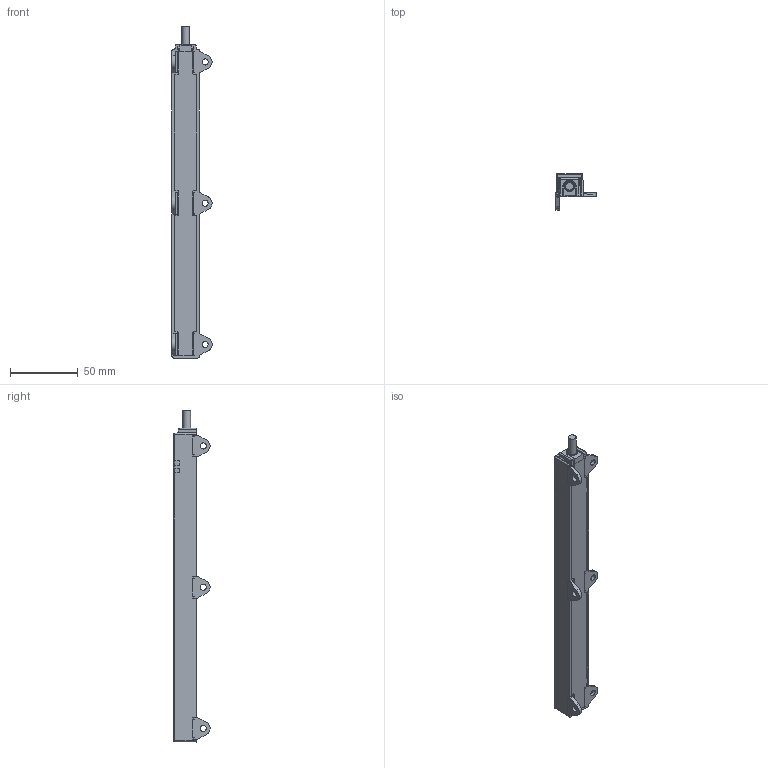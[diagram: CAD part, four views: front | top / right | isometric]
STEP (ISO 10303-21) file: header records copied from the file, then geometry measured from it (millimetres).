
FILE_DESCRIPTION((''),'2;1');
FILE_NAME('C:\TurckZip\Li200P1-Q17LM1-X2.stp','2011-09-29T10:21:37',('IKOROL'),(''),'Autodesk Inventor 2010','Autodesk Inventor 2010','');
FILE_SCHEMA(('CONFIG_CONTROL_DESIGN'));
Length unit declared in the file: millimetre
Products named in the file (1): Li200P1-Q17LM1-X2
Bounding box: 29.48 x 26.58 x 244.5 mm (x, y, z)
Volume: 74040.3 mm3; surface area: 25809.4 mm2
Topology: 1 solids, 1 shells, 757 faces, 2194 edges, 1422 vertices
Faces by surface type: plane 509, cylinder 220, cone 21, torus 7
Full cylindrical faces by diameter (mm): 4.5 x6, 5.6 x1, 7.5 x1
Entity records: 25162 total; most frequent: CARTESIAN_POINT 4648, ORIENTED_EDGE 4384, DIRECTION 4190, EDGE_CURVE 2192, VECTOR 1646, LINE 1646, VERTEX_POINT 1420, AXIS2_PLACEMENT_3D 1272
